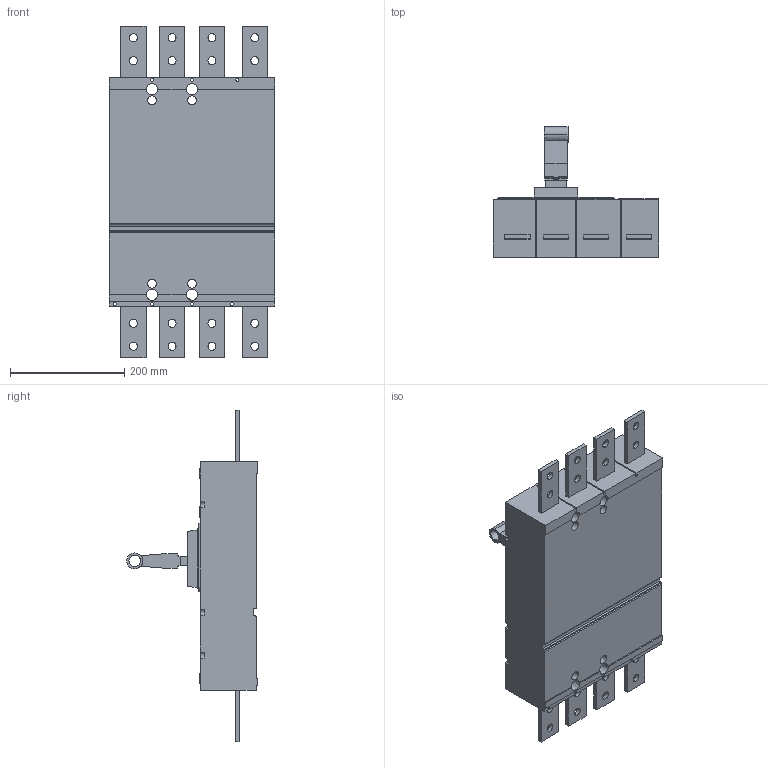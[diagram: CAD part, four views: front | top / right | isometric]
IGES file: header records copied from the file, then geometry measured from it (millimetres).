
Start section:  PTC IGES file: 31-metasol-mccb-1200af-4p.igs
Global section: file name: 31-metasol-mccb-1200af-4p.igs; native system: Pro/ENGINEER by Parametric Technology Corporation; preprocessor: 2010280; author: mgkimb; organization: Unknown; date: 20131029.143338; units: millimetre
Bounding box: 290 x 228.65 x 580 mm (x, y, z)
Surface area: 533782.4 mm2 (no closed solid volume)
Topology: 0 solids, 0 shells, 489 faces, 2610 edges, 2610 vertices
Faces by surface type: bspline 355, revolution 134
